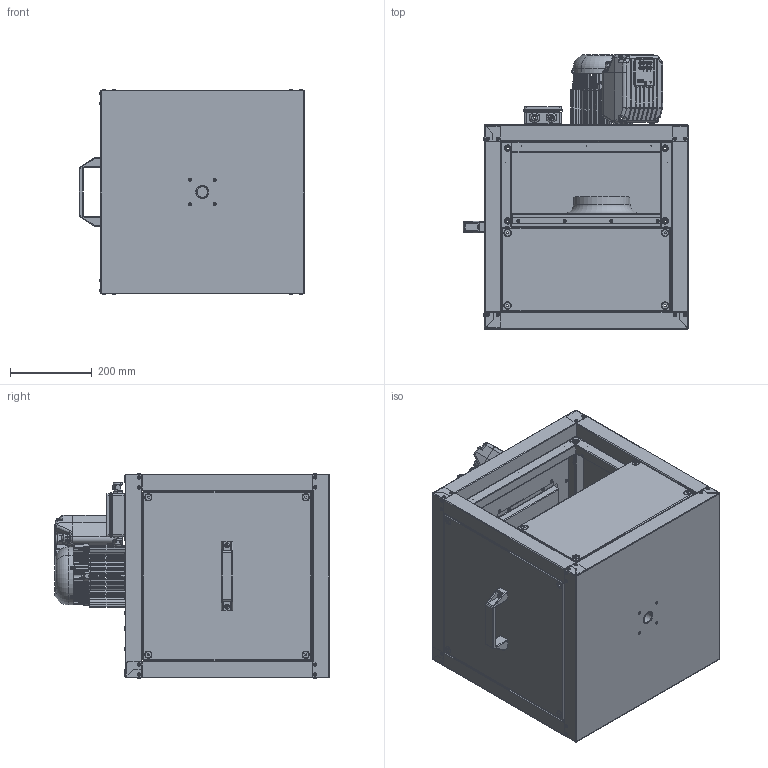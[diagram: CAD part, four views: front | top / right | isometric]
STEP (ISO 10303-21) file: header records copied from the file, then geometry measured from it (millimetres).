
FILE_DESCRIPTION (( 'STEP AP203' ), '1' );
FILE_NAME ('146152-00_MPC225ECTI30_step.step', '2018-07-03T13:22:04', ( '' ), ( '' ), 'SwSTEP 2.0', 'SolidWorks 2017', '' );
FILE_SCHEMA (( 'CONFIG_CONTROL_DESIGN' ));
Length unit declared in the file: millimetre
Products named in the file (2): 146152-00_MPC225ECTI30_step
Bounding box: 553.3 x 672.1 x 502.6 mm (x, y, z)
Surface area: 3625485.1 mm2 (no closed solid volume)
Topology: 0 solids, 366 shells, 2510 faces, 10502 edges, 8133 vertices
Faces by surface type: plane 949, cylinder 857, torus 330, bspline 211, cone 151, sphere 12
Entity records: 133871 total; most frequent: CARTESIAN_POINT 51649, DIRECTION 16678, ORIENTED_EDGE 14075, EDGE_CURVE 10496, VERTEX_POINT 8133, AXIS2_PLACEMENT_3D 5983, VECTOR 4712, LINE 4712
